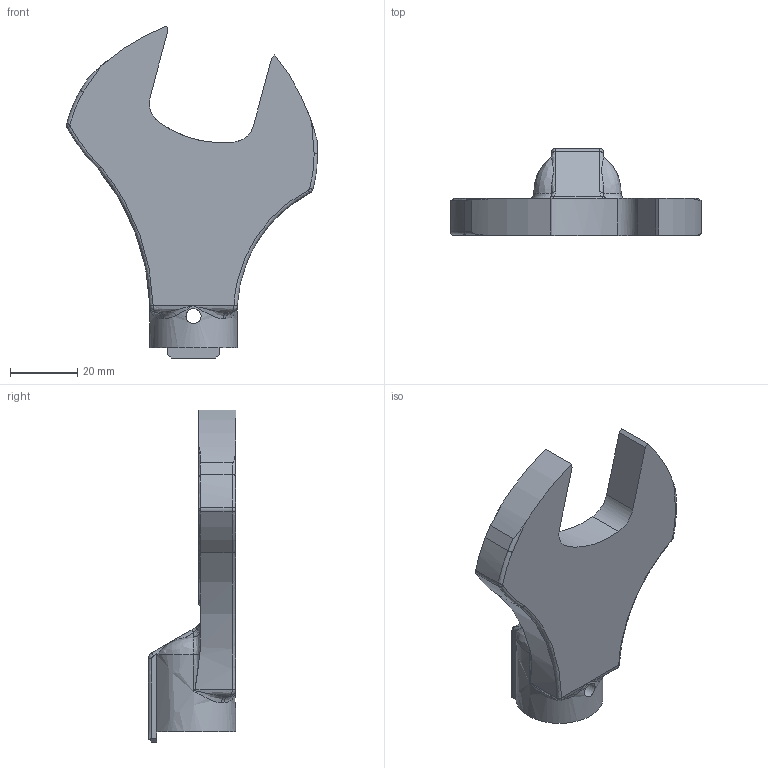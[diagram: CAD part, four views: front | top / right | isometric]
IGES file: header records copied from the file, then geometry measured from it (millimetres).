
Global section: file name: SH19DX32; native system: Autodesk Inventor 2016; preprocessor: unknown; author: Q600; date: 20151029.175526; units: millimetre
Bounding box: 74.88 x 26 x 99.05 mm (x, y, z)
Volume: 40086.5 mm3; surface area: 12863.7 mm2
Topology: 1 solids, 1 shells, 100 faces, 275 edges, 168 vertices
Faces by surface type: bspline 100
